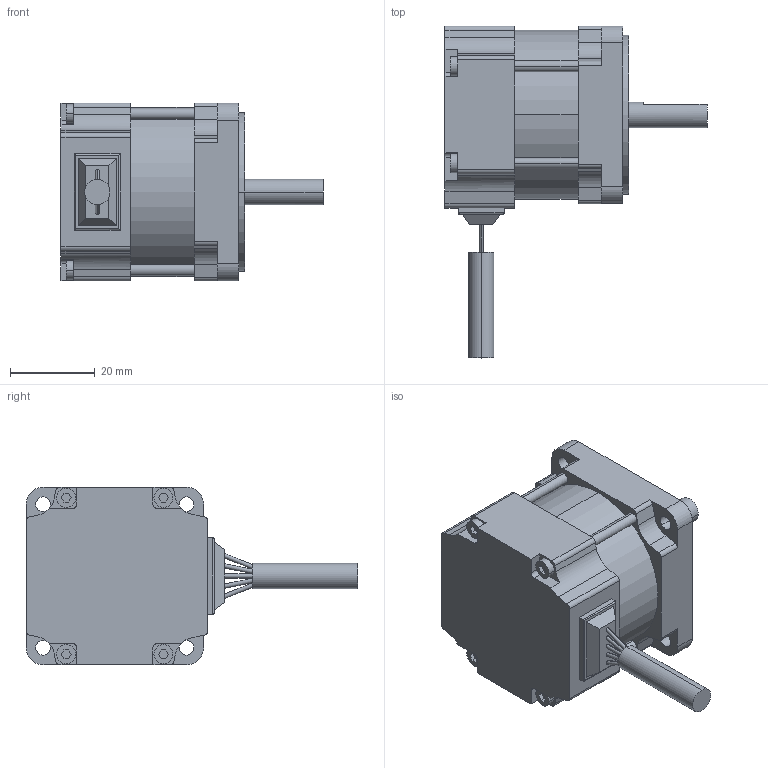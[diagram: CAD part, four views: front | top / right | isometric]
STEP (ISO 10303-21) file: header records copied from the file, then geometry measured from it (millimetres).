
FILE_DESCRIPTION( ( '' ), '1' );
FILE_NAME( 'B:/3D_CAD for Homepage/Brushless DC/BLH/BLH015K-A.stp', '2008-07-11T06:48:52', ( '' ), ( '' ), ' ', ' ', ' ' );
FILE_SCHEMA( ( 'CONFIG_CONTROL_DESIGN' ) );
Length unit declared in the file: millimetre
Products named in the file (1): 1
Bounding box: 62 x 78.5 x 42 mm (x, y, z)
Volume: 66267.6 mm3; surface area: 12357 mm2
Topology: 1 solids, 1 shells, 170 faces, 452 edges, 300 vertices
Faces by surface type: plane 92, cylinder 78
Entity records: 5414 total; most frequent: DIRECTION 952, CARTESIAN_POINT 923, ORIENTED_EDGE 904, EDGE_CURVE 452, AXIS2_PLACEMENT_3D 329, VERTEX_POINT 300, LINE 294, VECTOR 294
